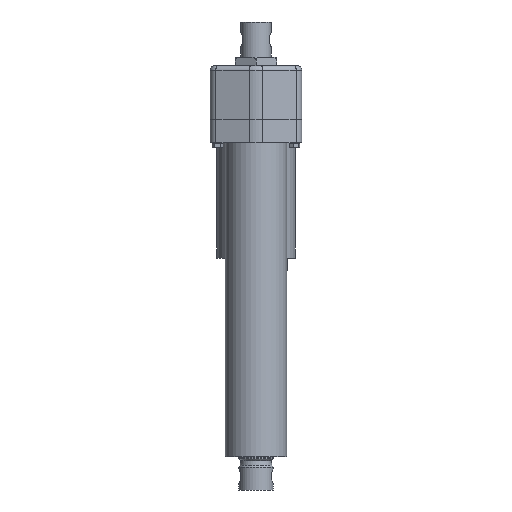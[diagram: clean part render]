
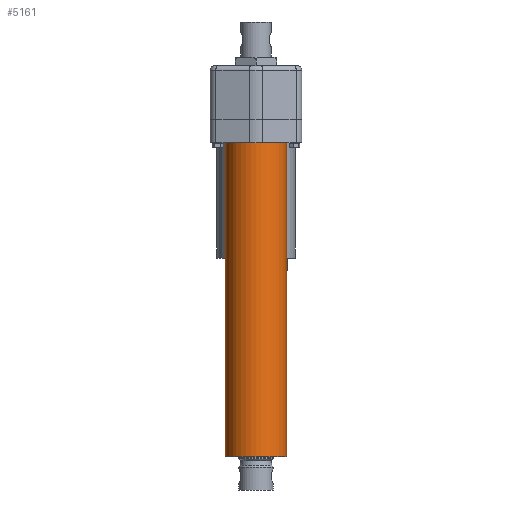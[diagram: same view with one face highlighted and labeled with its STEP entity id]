
A CAD part, front view. The second image highlights one B-rep face of the part: STEP entity #5161.
In plain terms, the highlighted cylindrical face has radius 25.5 mm (diameter 51 mm), a full revolution.
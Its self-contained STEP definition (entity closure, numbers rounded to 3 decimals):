
#413 = ORIENTED_EDGE ( 'NONE', *, *, #2308, .F. ) ;
#415 = ORIENTED_EDGE ( 'NONE', *, *, #2361, .F. ) ;
#522 = EDGE_LOOP ( 'NONE', ( #415 ) ) ;
#524 = EDGE_LOOP ( 'NONE', ( #413 ) ) ;
#1164 = AXIS2_PLACEMENT_3D ( 'NONE', #3363, #3366, #3367 ) ;
#1200 = AXIS2_PLACEMENT_3D ( 'NONE', #3656, #3668, #3669 ) ;
#1507 = FACE_OUTER_BOUND ( 'NONE', #524, .T. ) ;
#1519 = CYLINDRICAL_SURFACE ( 'NONE', #2236, 25.5 ) ;
#1520 = FACE_OUTER_BOUND ( 'NONE', #522, .T. ) ;
#2015 = CIRCLE ( 'NONE', #1164, 25.5 ) ;
#2090 = CIRCLE ( 'NONE', #1200, 25.5 ) ;
#2236 = AXIS2_PLACEMENT_3D ( 'NONE', #4822, #4841, #4840 ) ;
#2308 = EDGE_CURVE ( 'NONE', #4925, #4925, #2015, .T. ) ;
#2361 = EDGE_CURVE ( 'NONE', #4961, #4961, #2090, .T. ) ;
#3363 = CARTESIAN_POINT ( 'NONE',  ( 0., 0., 0. ) ) ;
#3366 = DIRECTION ( 'NONE',  ( 0., 0., -1. ) ) ;
#3367 = DIRECTION ( 'NONE',  ( 1., 0., 0. ) ) ;
#3656 = CARTESIAN_POINT ( 'NONE',  ( 0., 0., 261.3 ) ) ;
#3668 = DIRECTION ( 'NONE',  ( 0., 0., 1. ) ) ;
#3669 = DIRECTION ( 'NONE',  ( 1., 0., 0. ) ) ;
#4822 = CARTESIAN_POINT ( 'NONE',  ( 0., 0., -72.125 ) ) ;
#4840 = DIRECTION ( 'NONE',  ( 1., 0., 0. ) ) ;
#4841 = DIRECTION ( 'NONE',  ( 0., 0., 1. ) ) ;
#4925 = VERTEX_POINT ( 'NONE', #4926 ) ;
#4926 = CARTESIAN_POINT ( 'NONE',  ( 25.5, 0., 0. ) ) ;
#4961 = VERTEX_POINT ( 'NONE', #4962 ) ;
#4962 = CARTESIAN_POINT ( 'NONE',  ( 25.5, 0., 261.3 ) ) ;
#5161 = ADVANCED_FACE ( 'NONE', ( #1507, #1520 ), #1519, .T. ) ;
